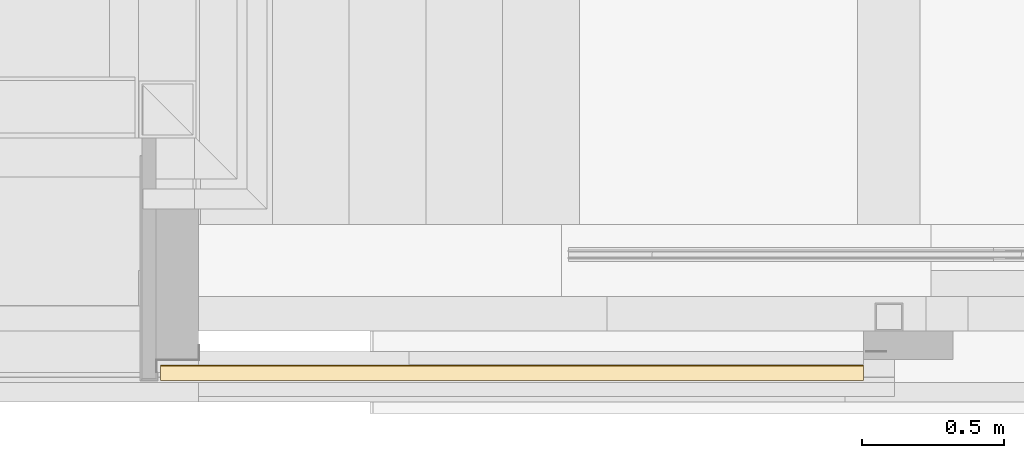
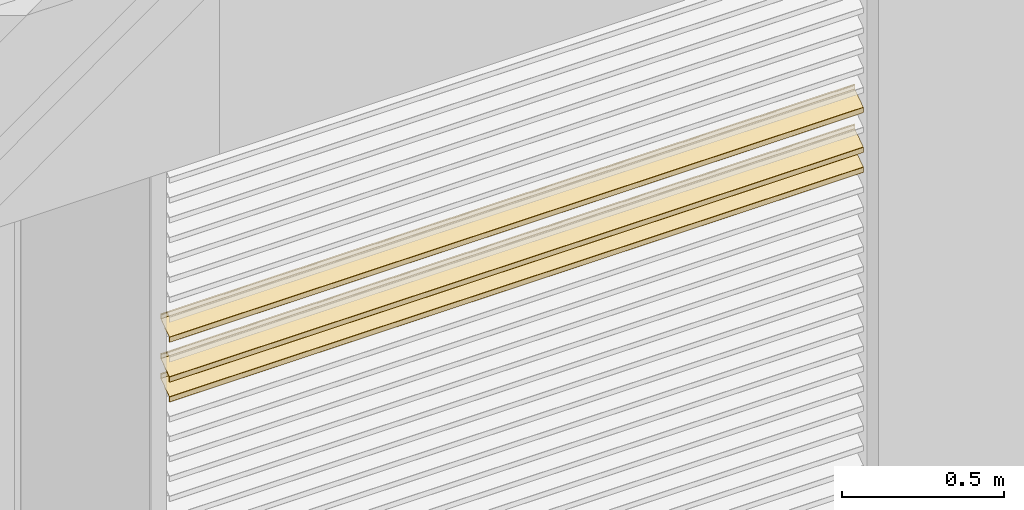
# One storey, part 109 of 165: 3 coverings, 1 element without a shape of its own.
"""IFC2X3 building model written with IfcOpenShell, lengths in millimetres."""

from ifc_helpers import new_model, entity, si_unit, converted_unit, derived_unit, money_unit, direction, frame, origin_with_axes, place, context, subcontext, project, spatial, faceted_brep, material, type_object, element, aggregate, save


model = new_model("IFC2X3")

# Units and contexts
model_context = context("Model", 3, precision=0.01, world=origin_with_axes(), true_north=direction((0.0, 1.0)))
body_context = subcontext(model_context, "Body", "Model", "MODEL_VIEW")
ifc_project = project(units=[si_unit("LENGTHUNIT", "METRE", prefix="MILLI"), si_unit("AREAUNIT", "SQUARE_METRE"), si_unit("VOLUMEUNIT", "CUBIC_METRE"), converted_unit("PLANEANGLEUNIT", "DEGREE", entity("IfcPlaneAngleMeasure", 0.0174532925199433), si_unit("PLANEANGLEUNIT", "RADIAN"), dimensions=[0, 0, 0, 0, 0, 0, 0]), money_unit("EUR"), converted_unit("TIMEUNIT", "Year", entity("IfcTimeMeasure", 31556926.0), si_unit("TIMEUNIT", "SECOND"), dimensions=[0, 0, 1, 0, 0, 0, 0]), si_unit("MASSUNIT", "GRAM", prefix="KILO"), si_unit("THERMODYNAMICTEMPERATUREUNIT", "DEGREE_CELSIUS"), si_unit("LUMINOUSINTENSITYUNIT", "LUMEN"), si_unit("ENERGYUNIT", "JOULE", prefix="MEGA"), derived_unit("THERMALCONDUCTANCEUNIT", [(si_unit("POWERUNIT", "WATT"), 1), (si_unit("LENGTHUNIT", "METRE"), -1), (si_unit("THERMODYNAMICTEMPERATUREUNIT", "KELVIN"), -1)]), derived_unit("SPECIFICHEATCAPACITYUNIT", [(si_unit("ENERGYUNIT", "JOULE"), 1), (si_unit("MASSUNIT", "GRAM", prefix="KILO"), -1), (si_unit("THERMODYNAMICTEMPERATUREUNIT", "KELVIN"), -1)]), derived_unit("MASSDENSITYUNIT", [(si_unit("MASSUNIT", "GRAM", prefix="KILO"), 1), (si_unit("VOLUMEUNIT", "CUBIC_METRE"), -1)])], contexts=[model_context])

# Site, building, storey
site_placement = place(None, origin_with_axes())
site = spatial("IfcSite", under=ifc_project, at=site_placement, Name="Site", CompositionType="ELEMENT")
building_placement = place(site_placement, origin_with_axes())
building = spatial("IfcBuilding", under=site, at=building_placement, Name="Naam gebouw", CompositionType="ELEMENT")
storey_placement = place(building_placement, origin_with_axes())
storey = spatial("IfcBuildingStorey", under=building, at=storey_placement, Name="Begane grond", CompositionType="ELEMENT", Elevation=0.0)

# Beam, coverings
beam_type = type_object("IfcBeamType", Name="30 Duco Louvre deur 55 x 2627", PredefinedType="BEAM")
beam_placement = place(storey_placement, frame((13900.0, -116.9904125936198, 0.0), z_axis=(0.0, 0.0, 1.0), x_axis=(0.0, 1.0, 0.0)))
beam = element("IfcBeam", 1, at=beam_placement, inside=storey, type_object=beam_type, Name="_Regenwaterafvoer-x", ObjectType="BEAM")
ifc_material = material(Name="Metaal - Aluminium")
covering_1_placement = place(beam_placement, origin_with_axes())
covering_1 = element("IfcCovering", 2, at=covering_1_placement, material=ifc_material, Name="Metaal - Aluminium", PredefinedType="NOTDEFINED", context=body_context, shape_type="Brep", body=[
    faceted_brep([(-4.027927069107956, 2473.999999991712, 1733.69950189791), (-56.57357643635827, 2473.999999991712, 1696.906642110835), (-56.57357643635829, 0.0, 1696.906642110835), (-4.02792706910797, 0.0, 1733.69950189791), (-3.90000000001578, 2473.999999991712, 1733.945247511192), (-3.900000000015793, 2473.999999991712, 1749.126428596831), (-3.975892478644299, 2473.999999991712, 1749.325867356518), (-4.165172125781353, 2473.999999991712, 1749.424400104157), (-4.372072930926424, 2473.999999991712, 1749.37217421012), (-5.427927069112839, 2473.999999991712, 1748.632857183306), (-5.634827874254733, 2473.999999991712, 1748.580631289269), (-5.824107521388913, 2473.999999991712, 1748.679164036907), (-5.900000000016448, 2473.999999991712, 1748.87860279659), (-5.900000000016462, 2473.999999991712, 1750.465609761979), (-5.77207293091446, 2473.999999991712, 1750.711355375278), (-2.944145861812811, 2473.999999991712, 1752.691491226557), (-2.530344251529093, 2473.999999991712, 1752.795943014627), (-2.151784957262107, 2473.999999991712, 1752.59887751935), (-2.000000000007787, 2473.999999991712, 1752.199999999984), (-2.000000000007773, 2473.999999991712, 1733.320567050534), (-2.42642356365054, 2473.999999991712, 1732.501415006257), (-26.08018232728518, 2473.999999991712, 1715.938874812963), (-26.40000000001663, 2473.999999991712, 1715.324510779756), (-26.40000000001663, 2473.999999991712, 1712.12781745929), (-26.61966991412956, 2473.999999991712, 1711.597487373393), (-28.05857864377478, 2473.999999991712, 1710.158578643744), (-28.20000000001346, 2473.999999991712, 1710.09999999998), (-28.34142135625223, 2473.999999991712, 1710.158578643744), (-28.40000000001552, 2473.999999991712, 1710.299999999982), (-28.40000000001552, 2473.999999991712, 1712.873784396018), (-28.58973119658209, 2473.999999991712, 1713.372381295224), (-29.06293031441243, 2473.999999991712, 1713.61871316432), (-29.58018232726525, 2473.999999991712, 1713.488148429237), (-30.60000000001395, 2473.999999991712, 1712.774064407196), (-30.60000000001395, 2473.999999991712, 1707.59999999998), (-30.74644660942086, 2473.999999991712, 1707.246446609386), (-31.10000000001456, 2473.999999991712, 1707.099999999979), (-32.10000000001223, 2473.999999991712, 1707.099999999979), (-32.45355339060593, 2473.999999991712, 1707.246446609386), (-32.60000000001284, 2473.999999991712, 1707.59999999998), (-32.60000000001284, 2473.999999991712, 1709.932912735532), (-32.78973119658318, 2473.999999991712, 1710.431509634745), (-33.26293031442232, 2473.999999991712, 1710.677841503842), (-33.780182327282, 2473.999999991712, 1710.547276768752), (-54.97207293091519, 2473.999999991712, 1695.708555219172), (-55.10000000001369, 2473.999999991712, 1695.462809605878), (-55.10000000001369, 2473.999999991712, 1679.973571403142), (-55.02410752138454, 2473.999999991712, 1679.774132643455), (-54.8348278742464, 2473.999999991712, 1679.675599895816), (-54.62792706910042, 2473.999999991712, 1679.727825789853), (-53.57207293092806, 2473.999999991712, 1680.467142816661), (-53.36517212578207, 2473.999999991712, 1680.519368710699), (-53.17589247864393, 2473.999999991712, 1680.420835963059), (-53.1000000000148, 2473.999999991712, 1680.221397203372), (-53.1000000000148, 2473.999999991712, 1678.634390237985), (-53.22792706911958, 2473.999999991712, 1678.38864462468), (-56.05585413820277, 2473.999999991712, 1676.408508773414), (-56.46965574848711, 2473.999999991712, 1676.304056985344), (-56.8482150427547, 2473.999999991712, 1676.50112248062), (-57.00000000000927, 2473.999999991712, 1676.899999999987), (-57.00000000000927, 2473.999999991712, 1696.087490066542), (-57.00000000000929, 0.0, 1696.087490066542), (-57.00000000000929, 0.0, 1676.899999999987), (-56.84821504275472, 0.0, 1676.50112248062), (-56.46965574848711, 0.0, 1676.304056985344), (-56.0558541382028, 0.0, 1676.408508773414), (-53.22792706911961, 0.0, 1678.38864462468), (-53.10000000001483, 0.0, 1678.634390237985), (-53.10000000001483, 0.0, 1680.221397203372), (-53.17589247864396, 0.0, 1680.420835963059), (-53.36517212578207, 0.0, 1680.519368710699), (-53.57207293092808, 0.0, 1680.467142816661), (-54.62792706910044, 0.0, 1679.727825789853), (-54.83482787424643, 0.0, 1679.675599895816), (-55.02410752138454, 0.0, 1679.774132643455), (-55.10000000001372, 0.0, 1679.973571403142), (-55.10000000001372, 0.0, 1695.462809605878), (-54.97207293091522, 0.0, 1695.708555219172), (-33.78018232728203, 0.0, 1710.547276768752), (-33.26293031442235, 0.0, 1710.677841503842), (-32.78973119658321, 0.0, 1710.431509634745), (-32.60000000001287, 0.0, 1709.932912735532), (-32.60000000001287, 0.0, 1707.59999999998), (-32.45355339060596, 0.0, 1707.246446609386), (-32.10000000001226, 0.0, 1707.099999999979), (-31.10000000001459, 0.0, 1707.099999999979), (-30.74644660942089, 0.0, 1707.246446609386), (-30.60000000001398, 0.0, 1707.59999999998), (-30.60000000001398, 0.0, 1712.774064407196), (-29.58018232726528, 0.0, 1713.488148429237), (-29.06293031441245, 0.0, 1713.61871316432), (-28.58973119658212, 0.0, 1713.372381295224), (-28.40000000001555, 0.0, 1712.873784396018), (-28.40000000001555, 0.0, 1710.299999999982), (-28.34142135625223, 0.0, 1710.158578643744), (-28.20000000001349, 0.0, 1710.09999999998), (-28.05857864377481, 0.0, 1710.158578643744), (-26.61966991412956, 0.0, 1711.597487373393), (-26.40000000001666, 0.0, 1712.12781745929), (-26.40000000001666, 0.0, 1715.324510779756), (-26.08018232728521, 0.0, 1715.938874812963), (-2.42642356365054, 0.0, 1732.501415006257), (-2.000000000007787, 0.0, 1733.320567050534), (-2.000000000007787, 0.0, 1752.199999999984), (-2.151784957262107, 0.0, 1752.59887751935), (-2.530344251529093, 0.0, 1752.795943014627), (-2.944145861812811, 0.0, 1752.691491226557), (-5.77207293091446, 0.0, 1750.711355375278), (-5.900000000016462, 0.0, 1750.465609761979), (-5.900000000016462, 0.0, 1748.87860279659), (-5.824107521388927, 0.0, 1748.679164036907), (-5.634827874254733, 0.0, 1748.580631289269), (-5.427927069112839, 0.0, 1748.632857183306), (-4.372072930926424, 0.0, 1749.37217421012), (-4.165172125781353, 0.0, 1749.424400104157), (-3.975892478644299, 0.0, 1749.325867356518), (-3.900000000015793, 0.0, 1749.126428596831), (-3.900000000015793, 0.0, 1733.945247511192)], [[[0, 1, 2, 3]], [[0, 4, 5, 6, 7, 8, 9, 10, 11, 12, 13, 14, 15, 16, 17, 18, 19, 20, 21, 22, 23, 24, 25, 26, 27, 28, 29, 30, 31, 32, 33, 34, 35, 36, 37, 38, 39, 40, 41, 42, 43, 44, 45, 46, 47, 48, 49, 50, 51, 52, 53, 54, 55, 56, 57, 58, 59, 60, 1]], [[1, 60, 61, 2]], [[3, 2, 61, 62, 63, 64, 65, 66, 67, 68, 69, 70, 71, 72, 73, 74, 75, 76, 77, 78, 79, 80, 81, 82, 83, 84, 85, 86, 87, 88, 89, 90, 91, 92, 93, 94, 95, 96, 97, 98, 99, 100, 101, 102, 103, 104, 105, 106, 107, 108, 109, 110, 111, 112, 113, 114, 115, 116, 117]], [[4, 0, 3, 117]], [[5, 4, 117, 116]], [[6, 5, 116, 115]], [[7, 6, 115, 114]], [[8, 7, 114, 113]], [[9, 8, 113, 112]], [[10, 9, 112, 111]], [[11, 10, 111, 110]], [[12, 11, 110, 109]], [[13, 12, 109, 108]], [[14, 13, 108, 107]], [[15, 14, 107, 106]], [[16, 15, 106, 105]], [[17, 16, 105, 104]], [[18, 17, 104, 103]], [[19, 18, 103, 102]], [[20, 19, 102, 101]], [[21, 20, 101, 100]], [[22, 21, 100, 99]], [[23, 22, 99, 98]], [[24, 23, 98, 97]], [[25, 24, 97, 96]], [[26, 25, 96, 95]], [[27, 26, 95, 94]], [[28, 27, 94, 93]], [[29, 28, 93, 92]], [[30, 29, 92, 91]], [[31, 30, 91, 90]], [[32, 31, 90, 89]], [[33, 32, 89, 88]], [[34, 33, 88, 87]], [[35, 34, 87, 86]], [[36, 35, 86, 85]], [[37, 36, 85, 84]], [[38, 37, 84, 83]], [[39, 38, 83, 82]], [[40, 39, 82, 81]], [[41, 40, 81, 80]], [[42, 41, 80, 79]], [[43, 42, 79, 78]], [[44, 43, 78, 77]], [[45, 44, 77, 76]], [[46, 45, 76, 75]], [[47, 46, 75, 74]], [[48, 47, 74, 73]], [[49, 48, 73, 72]], [[50, 49, 72, 71]], [[51, 50, 71, 70]], [[52, 51, 70, 69]], [[53, 52, 69, 68]], [[54, 53, 68, 67]], [[55, 54, 67, 66]], [[56, 55, 66, 65]], [[57, 56, 65, 64]], [[58, 57, 64, 63]], [[59, 58, 63, 62]], [[60, 59, 62, 61]]]),
])
covering_2_placement = place(beam_placement, origin_with_axes())
covering_2 = element("IfcCovering", 3, at=covering_2_placement, material=ifc_material, Name="Metaal - Aluminium", PredefinedType="NOTDEFINED", context=body_context, shape_type="Brep", body=[
    faceted_brep([(-4.027927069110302, 2473.999999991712, 1808.699501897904), (-56.57357643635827, 2473.999999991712, 1771.90664211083), (-56.57357643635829, 0.0, 1771.90664211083), (-4.027927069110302, 0.0, 1808.699501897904), (-3.900000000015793, 2473.999999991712, 1808.94524751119), (-3.900000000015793, 2473.999999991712, 1824.126428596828), (-3.975892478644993, 2473.999999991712, 1824.325867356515), (-4.165172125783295, 2473.999999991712, 1824.424400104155), (-4.372072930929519, 2473.999999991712, 1824.372174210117), (-5.427927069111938, 2473.999999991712, 1823.632857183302), (-5.634827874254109, 2473.999999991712, 1823.580631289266), (-5.824107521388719, 2473.999999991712, 1823.679164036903), (-5.900000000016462, 2473.999999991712, 1823.878602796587), (-5.900000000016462, 2473.999999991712, 1825.465609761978), (-5.772072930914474, 2473.999999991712, 1825.711355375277), (-2.944145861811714, 2473.999999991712, 1827.691491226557), (-2.53034425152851, 2473.999999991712, 1827.795943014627), (-2.15178495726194, 2473.999999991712, 1827.598877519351), (-2.000000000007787, 2473.999999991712, 1827.199999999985), (-2.000000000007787, 2473.999999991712, 1808.320567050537), (-2.426423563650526, 2473.999999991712, 1807.501415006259), (-26.08018232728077, 2473.999999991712, 1790.938874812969), (-26.40000000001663, 2473.999999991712, 1790.324510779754), (-26.40000000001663, 2473.999999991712, 1787.127817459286), (-26.61966991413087, 2473.999999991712, 1786.597487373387), (-28.0585786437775, 2473.999999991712, 1785.158578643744), (-28.20000000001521, 2473.999999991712, 1785.099999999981), (-28.34142135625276, 2473.999999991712, 1785.158578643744), (-28.40000000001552, 2473.999999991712, 1785.299999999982), (-28.40000000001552, 2473.999999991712, 1787.873784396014), (-28.58973119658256, 2473.999999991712, 1788.372381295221), (-29.06293031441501, 2473.999999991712, 1788.618713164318), (-29.58018232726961, 2473.999999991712, 1788.488148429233), (-30.60000000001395, 2473.999999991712, 1787.774064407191), (-30.60000000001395, 2473.999999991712, 1782.599999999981), (-30.74644660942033, 2473.999999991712, 1782.246446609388), (-31.10000000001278, 2473.999999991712, 1782.099999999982), (-32.10000000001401, 2473.999999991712, 1782.099999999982), (-32.45355339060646, 2473.999999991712, 1782.246446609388), (-32.60000000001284, 2473.999999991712, 1782.599999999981), (-32.60000000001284, 2473.999999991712, 1784.932912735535), (-32.78973119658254, 2473.999999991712, 1785.431509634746), (-33.26293031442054, 2473.999999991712, 1785.677841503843), (-33.78018232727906, 2473.999999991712, 1785.547276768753), (-54.9720729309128, 2473.999999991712, 1770.708555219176), (-55.10000000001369, 2473.999999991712, 1770.462809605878), (-55.10000000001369, 2473.999999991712, 1754.973571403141), (-55.02410752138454, 2473.999999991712, 1754.774132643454), (-54.8348278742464, 2473.999999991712, 1754.675599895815), (-54.62792706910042, 2473.999999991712, 1754.727825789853), (-53.57207293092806, 2473.999999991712, 1755.46714281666), (-53.36517212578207, 2473.999999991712, 1755.519368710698), (-53.17589247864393, 2473.999999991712, 1755.420835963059), (-53.1000000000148, 2473.999999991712, 1755.221397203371), (-53.1000000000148, 2473.999999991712, 1753.634390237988), (-53.22792706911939, 2473.999999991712, 1753.388644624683), (-56.05585413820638, 2473.999999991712, 1751.408508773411), (-56.46965574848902, 2473.999999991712, 1751.304056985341), (-56.84821504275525, 2473.999999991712, 1751.501122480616), (-57.00000000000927, 2473.999999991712, 1751.899999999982), (-57.00000000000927, 2473.999999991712, 1771.087490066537), (-57.00000000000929, 0.0, 1771.087490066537), (-57.00000000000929, 0.0, 1751.899999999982), (-56.84821504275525, 0.0, 1751.501122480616), (-56.46965574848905, 0.0, 1751.304056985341), (-56.05585413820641, 0.0, 1751.408508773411), (-53.22792706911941, 0.0, 1753.388644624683), (-53.10000000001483, 0.0, 1753.634390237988), (-53.10000000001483, 0.0, 1755.221397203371), (-53.17589247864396, 0.0, 1755.420835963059), (-53.36517212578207, 0.0, 1755.519368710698), (-53.57207293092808, 0.0, 1755.46714281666), (-54.62792706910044, 0.0, 1754.727825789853), (-54.83482787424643, 0.0, 1754.675599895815), (-55.02410752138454, 0.0, 1754.774132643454), (-55.10000000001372, 0.0, 1754.973571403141), (-55.10000000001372, 0.0, 1770.462809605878), (-54.97207293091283, 0.0, 1770.708555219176), (-33.78018232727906, 0.0, 1785.547276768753), (-33.26293031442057, 0.0, 1785.677841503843), (-32.78973119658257, 0.0, 1785.431509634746), (-32.60000000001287, 0.0, 1784.932912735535), (-32.60000000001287, 0.0, 1782.599999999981), (-32.45355339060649, 0.0, 1782.246446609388), (-32.10000000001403, 0.0, 1782.099999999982), (-31.10000000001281, 0.0, 1782.099999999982), (-30.74644660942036, 0.0, 1782.246446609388), (-30.60000000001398, 0.0, 1782.599999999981), (-30.60000000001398, 0.0, 1787.774064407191), (-29.58018232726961, 0.0, 1788.488148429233), (-29.06293031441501, 0.0, 1788.618713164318), (-28.58973119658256, 0.0, 1788.372381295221), (-28.40000000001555, 0.0, 1787.873784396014), (-28.40000000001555, 0.0, 1785.299999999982), (-28.34142135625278, 0.0, 1785.158578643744), (-28.20000000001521, 0.0, 1785.099999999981), (-28.0585786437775, 0.0, 1785.158578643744), (-26.6196699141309, 0.0, 1786.597487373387), (-26.40000000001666, 0.0, 1787.127817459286), (-26.40000000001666, 0.0, 1790.324510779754), (-26.08018232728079, 0.0, 1790.938874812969), (-2.42642356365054, 0.0, 1807.501415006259), (-2.000000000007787, 0.0, 1808.320567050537), (-2.000000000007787, 0.0, 1827.199999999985), (-2.151784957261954, 0.0, 1827.598877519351), (-2.530344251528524, 0.0, 1827.795943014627), (-2.944145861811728, 0.0, 1827.691491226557), (-5.772072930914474, 0.0, 1825.711355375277), (-5.900000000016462, 0.0, 1825.465609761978), (-5.900000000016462, 0.0, 1823.878602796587), (-5.824107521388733, 0.0, 1823.679164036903), (-5.634827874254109, 0.0, 1823.580631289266), (-5.427927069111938, 0.0, 1823.632857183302), (-4.372072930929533, 0.0, 1824.372174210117), (-4.165172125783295, 0.0, 1824.424400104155), (-3.975892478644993, 0.0, 1824.325867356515), (-3.900000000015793, 0.0, 1824.126428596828), (-3.900000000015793, 0.0, 1808.94524751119)], [[[0, 1, 2, 3]], [[0, 4, 5, 6, 7, 8, 9, 10, 11, 12, 13, 14, 15, 16, 17, 18, 19, 20, 21, 22, 23, 24, 25, 26, 27, 28, 29, 30, 31, 32, 33, 34, 35, 36, 37, 38, 39, 40, 41, 42, 43, 44, 45, 46, 47, 48, 49, 50, 51, 52, 53, 54, 55, 56, 57, 58, 59, 60, 1]], [[1, 60, 61, 2]], [[3, 2, 61, 62, 63, 64, 65, 66, 67, 68, 69, 70, 71, 72, 73, 74, 75, 76, 77, 78, 79, 80, 81, 82, 83, 84, 85, 86, 87, 88, 89, 90, 91, 92, 93, 94, 95, 96, 97, 98, 99, 100, 101, 102, 103, 104, 105, 106, 107, 108, 109, 110, 111, 112, 113, 114, 115, 116, 117]], [[4, 0, 3, 117]], [[5, 4, 117, 116]], [[6, 5, 116, 115]], [[7, 6, 115, 114]], [[8, 7, 114, 113]], [[9, 8, 113, 112]], [[10, 9, 112, 111]], [[11, 10, 111, 110]], [[12, 11, 110, 109]], [[13, 12, 109, 108]], [[14, 13, 108, 107]], [[15, 14, 107, 106]], [[16, 15, 106, 105]], [[17, 16, 105, 104]], [[18, 17, 104, 103]], [[19, 18, 103, 102]], [[20, 19, 102, 101]], [[21, 20, 101, 100]], [[22, 21, 100, 99]], [[23, 22, 99, 98]], [[24, 23, 98, 97]], [[25, 24, 97, 96]], [[26, 25, 96, 95]], [[27, 26, 95, 94]], [[28, 27, 94, 93]], [[29, 28, 93, 92]], [[30, 29, 92, 91]], [[31, 30, 91, 90]], [[32, 31, 90, 89]], [[33, 32, 89, 88]], [[34, 33, 88, 87]], [[35, 34, 87, 86]], [[36, 35, 86, 85]], [[37, 36, 85, 84]], [[38, 37, 84, 83]], [[39, 38, 83, 82]], [[40, 39, 82, 81]], [[41, 40, 81, 80]], [[42, 41, 80, 79]], [[43, 42, 79, 78]], [[44, 43, 78, 77]], [[45, 44, 77, 76]], [[46, 45, 76, 75]], [[47, 46, 75, 74]], [[48, 47, 74, 73]], [[49, 48, 73, 72]], [[50, 49, 72, 71]], [[51, 50, 71, 70]], [[52, 51, 70, 69]], [[53, 52, 69, 68]], [[54, 53, 68, 67]], [[55, 54, 67, 66]], [[56, 55, 66, 65]], [[57, 56, 65, 64]], [[58, 57, 64, 63]], [[59, 58, 63, 62]], [[60, 59, 62, 61]]]),
])
covering_3_placement = place(beam_placement, origin_with_axes())
covering_3 = element("IfcCovering", 4, at=covering_3_placement, material=ifc_material, Name="Metaal - Aluminium", PredefinedType="NOTDEFINED", context=body_context, shape_type="Brep", body=[
    faceted_brep([(-4.027927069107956, 2473.999999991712, 1958.69950189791), (-56.57357643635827, 2473.999999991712, 1921.906642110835), (-56.57357643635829, 0.0, 1921.906642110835), (-4.02792706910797, 0.0, 1958.69950189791), (-3.90000000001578, 2473.999999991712, 1958.945247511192), (-3.900000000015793, 2473.999999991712, 1974.126428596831), (-3.975892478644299, 2473.999999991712, 1974.325867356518), (-4.165172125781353, 2473.999999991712, 1974.424400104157), (-4.372072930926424, 2473.999999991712, 1974.37217421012), (-5.427927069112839, 2473.999999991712, 1973.632857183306), (-5.634827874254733, 2473.999999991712, 1973.580631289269), (-5.824107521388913, 2473.999999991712, 1973.679164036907), (-5.900000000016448, 2473.999999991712, 1973.878602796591), (-5.900000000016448, 2473.999999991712, 1975.465609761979), (-5.77207293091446, 2473.999999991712, 1975.711355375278), (-2.944145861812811, 2473.999999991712, 1977.691491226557), (-2.530344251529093, 2473.999999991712, 1977.795943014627), (-2.151784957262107, 2473.999999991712, 1977.59887751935), (-2.000000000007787, 2473.999999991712, 1977.199999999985), (-2.000000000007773, 2473.999999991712, 1958.320567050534), (-2.42642356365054, 2473.999999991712, 1957.501415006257), (-26.08018232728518, 2473.999999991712, 1940.938874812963), (-26.40000000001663, 2473.999999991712, 1940.324510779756), (-26.40000000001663, 2473.999999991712, 1937.12781745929), (-26.61966991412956, 2473.999999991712, 1936.597487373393), (-28.05857864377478, 2473.999999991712, 1935.158578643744), (-28.20000000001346, 2473.999999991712, 1935.099999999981), (-28.34142135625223, 2473.999999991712, 1935.158578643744), (-28.40000000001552, 2473.999999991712, 1935.299999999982), (-28.40000000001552, 2473.999999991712, 1937.873784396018), (-28.58973119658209, 2473.999999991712, 1938.372381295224), (-29.06293031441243, 2473.999999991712, 1938.61871316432), (-29.58018232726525, 2473.999999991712, 1938.488148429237), (-30.60000000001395, 2473.999999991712, 1937.774064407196), (-30.60000000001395, 2473.999999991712, 1932.59999999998), (-30.74644660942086, 2473.999999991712, 1932.246446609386), (-31.10000000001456, 2473.999999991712, 1932.099999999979), (-32.10000000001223, 2473.999999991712, 1932.099999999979), (-32.45355339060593, 2473.999999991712, 1932.246446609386), (-32.60000000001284, 2473.999999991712, 1932.59999999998), (-32.60000000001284, 2473.999999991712, 1934.932912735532), (-32.78973119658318, 2473.999999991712, 1935.431509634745), (-33.26293031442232, 2473.999999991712, 1935.677841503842), (-33.780182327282, 2473.999999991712, 1935.547276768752), (-54.97207293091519, 2473.999999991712, 1920.708555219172), (-55.10000000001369, 2473.999999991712, 1920.462809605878), (-55.10000000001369, 2473.999999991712, 1904.973571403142), (-55.02410752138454, 2473.999999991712, 1904.774132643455), (-54.8348278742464, 2473.999999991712, 1904.675599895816), (-54.62792706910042, 2473.999999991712, 1904.727825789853), (-53.57207293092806, 2473.999999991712, 1905.467142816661), (-53.36517212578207, 2473.999999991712, 1905.519368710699), (-53.17589247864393, 2473.999999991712, 1905.420835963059), (-53.1000000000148, 2473.999999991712, 1905.221397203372), (-53.1000000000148, 2473.999999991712, 1903.634390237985), (-53.22792706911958, 2473.999999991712, 1903.38864462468), (-56.05585413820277, 2473.999999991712, 1901.408508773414), (-56.46965574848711, 2473.999999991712, 1901.304056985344), (-56.8482150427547, 2473.999999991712, 1901.50112248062), (-57.00000000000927, 2473.999999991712, 1901.899999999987), (-57.00000000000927, 2473.999999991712, 1921.087490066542), (-57.00000000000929, 0.0, 1921.087490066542), (-57.00000000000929, 0.0, 1901.899999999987), (-56.84821504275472, 0.0, 1901.50112248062), (-56.46965574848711, 0.0, 1901.304056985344), (-56.0558541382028, 0.0, 1901.408508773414), (-53.22792706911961, 0.0, 1903.38864462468), (-53.10000000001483, 0.0, 1903.634390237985), (-53.10000000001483, 0.0, 1905.221397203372), (-53.17589247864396, 0.0, 1905.420835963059), (-53.36517212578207, 0.0, 1905.519368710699), (-53.57207293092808, 0.0, 1905.467142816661), (-54.62792706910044, 0.0, 1904.727825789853), (-54.83482787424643, 0.0, 1904.675599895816), (-55.02410752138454, 0.0, 1904.774132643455), (-55.10000000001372, 0.0, 1904.973571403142), (-55.10000000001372, 0.0, 1920.462809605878), (-54.97207293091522, 0.0, 1920.708555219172), (-33.78018232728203, 0.0, 1935.547276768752), (-33.26293031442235, 0.0, 1935.677841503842), (-32.78973119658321, 0.0, 1935.431509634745), (-32.60000000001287, 0.0, 1934.932912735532), (-32.60000000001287, 0.0, 1932.59999999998), (-32.45355339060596, 0.0, 1932.246446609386), (-32.10000000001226, 0.0, 1932.099999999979), (-31.10000000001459, 0.0, 1932.099999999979), (-30.74644660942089, 0.0, 1932.246446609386), (-30.60000000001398, 0.0, 1932.59999999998), (-30.60000000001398, 0.0, 1937.774064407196), (-29.58018232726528, 0.0, 1938.488148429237), (-29.06293031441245, 0.0, 1938.61871316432), (-28.58973119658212, 0.0, 1938.372381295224), (-28.40000000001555, 0.0, 1937.873784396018), (-28.40000000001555, 0.0, 1935.299999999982), (-28.34142135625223, 0.0, 1935.158578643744), (-28.20000000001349, 0.0, 1935.099999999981), (-28.05857864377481, 0.0, 1935.158578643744), (-26.61966991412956, 0.0, 1936.597487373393), (-26.40000000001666, 0.0, 1937.12781745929), (-26.40000000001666, 0.0, 1940.324510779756), (-26.08018232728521, 0.0, 1940.938874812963), (-2.42642356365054, 0.0, 1957.501415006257), (-2.000000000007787, 0.0, 1958.320567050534), (-2.000000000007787, 0.0, 1977.199999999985), (-2.151784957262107, 0.0, 1977.59887751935), (-2.530344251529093, 0.0, 1977.795943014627), (-2.944145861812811, 0.0, 1977.691491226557), (-5.77207293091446, 0.0, 1975.711355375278), (-5.900000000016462, 0.0, 1975.465609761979), (-5.900000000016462, 0.0, 1973.878602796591), (-5.824107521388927, 0.0, 1973.679164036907), (-5.634827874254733, 0.0, 1973.580631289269), (-5.427927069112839, 0.0, 1973.632857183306), (-4.372072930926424, 0.0, 1974.37217421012), (-4.165172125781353, 0.0, 1974.424400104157), (-3.975892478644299, 0.0, 1974.325867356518), (-3.900000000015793, 0.0, 1974.126428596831), (-3.900000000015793, 0.0, 1958.945247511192)], [[[0, 1, 2, 3]], [[0, 4, 5, 6, 7, 8, 9, 10, 11, 12, 13, 14, 15, 16, 17, 18, 19, 20, 21, 22, 23, 24, 25, 26, 27, 28, 29, 30, 31, 32, 33, 34, 35, 36, 37, 38, 39, 40, 41, 42, 43, 44, 45, 46, 47, 48, 49, 50, 51, 52, 53, 54, 55, 56, 57, 58, 59, 60, 1]], [[1, 60, 61, 2]], [[3, 2, 61, 62, 63, 64, 65, 66, 67, 68, 69, 70, 71, 72, 73, 74, 75, 76, 77, 78, 79, 80, 81, 82, 83, 84, 85, 86, 87, 88, 89, 90, 91, 92, 93, 94, 95, 96, 97, 98, 99, 100, 101, 102, 103, 104, 105, 106, 107, 108, 109, 110, 111, 112, 113, 114, 115, 116, 117]], [[4, 0, 3, 117]], [[5, 4, 117, 116]], [[6, 5, 116, 115]], [[7, 6, 115, 114]], [[8, 7, 114, 113]], [[9, 8, 113, 112]], [[10, 9, 112, 111]], [[11, 10, 111, 110]], [[12, 11, 110, 109]], [[13, 12, 109, 108]], [[14, 13, 108, 107]], [[15, 14, 107, 106]], [[16, 15, 106, 105]], [[17, 16, 105, 104]], [[18, 17, 104, 103]], [[19, 18, 103, 102]], [[20, 19, 102, 101]], [[21, 20, 101, 100]], [[22, 21, 100, 99]], [[23, 22, 99, 98]], [[24, 23, 98, 97]], [[25, 24, 97, 96]], [[26, 25, 96, 95]], [[27, 26, 95, 94]], [[28, 27, 94, 93]], [[29, 28, 93, 92]], [[30, 29, 92, 91]], [[31, 30, 91, 90]], [[32, 31, 90, 89]], [[33, 32, 89, 88]], [[34, 33, 88, 87]], [[35, 34, 87, 86]], [[36, 35, 86, 85]], [[37, 36, 85, 84]], [[38, 37, 84, 83]], [[39, 38, 83, 82]], [[40, 39, 82, 81]], [[41, 40, 81, 80]], [[42, 41, 80, 79]], [[43, 42, 79, 78]], [[44, 43, 78, 77]], [[45, 44, 77, 76]], [[46, 45, 76, 75]], [[47, 46, 75, 74]], [[48, 47, 74, 73]], [[49, 48, 73, 72]], [[50, 49, 72, 71]], [[51, 50, 71, 70]], [[52, 51, 70, 69]], [[53, 52, 69, 68]], [[54, 53, 68, 67]], [[55, 54, 67, 66]], [[56, 55, 66, 65]], [[57, 56, 65, 64]], [[58, 57, 64, 63]], [[59, 58, 63, 62]], [[60, 59, 62, 61]]]),
])
aggregate(beam, [covering_1, covering_2, covering_3])

save(model, "model.ifc")
